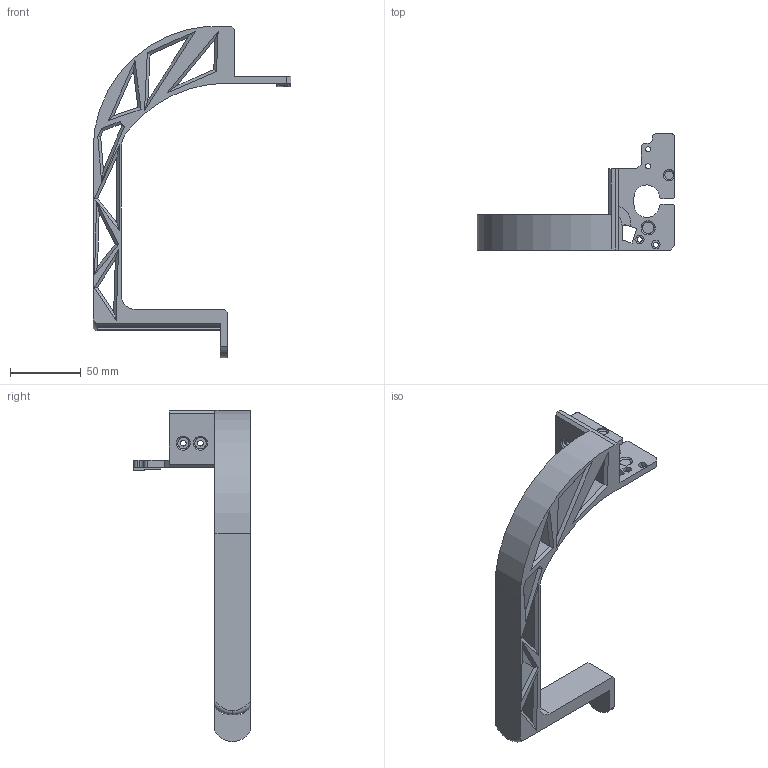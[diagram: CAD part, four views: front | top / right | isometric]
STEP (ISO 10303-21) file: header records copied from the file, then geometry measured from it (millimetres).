
FILE_DESCRIPTION (( 'STEP AP203' ), '1' );
FILE_NAME ('蹋攫盓殤.STEP', '2024-01-02T07:37:21', ( '' ), ( '' ), 'SwSTEP 2.0', 'SolidWorks 2014', '' );
FILE_SCHEMA (( 'CONFIG_CONTROL_DESIGN' ));
Length unit declared in the file: millimetre
Products named in the file (1): 蹋攫盓殤
Bounding box: 140 x 82.5 x 234.1 mm (x, y, z)
Volume: 163209.9 mm3; surface area: 55477.5 mm2
Topology: 1 solids, 1 shells, 197 faces, 518 edges, 325 vertices
Faces by surface type: plane 137, cylinder 39, cone 11, torus 6, bspline 4
Entity records: 6125 total; most frequent: CARTESIAN_POINT 1098, ORIENTED_EDGE 1036, DIRECTION 996, EDGE_CURVE 518, VECTOR 402, LINE 402, VERTEX_POINT 325, AXIS2_PLACEMENT_3D 297
